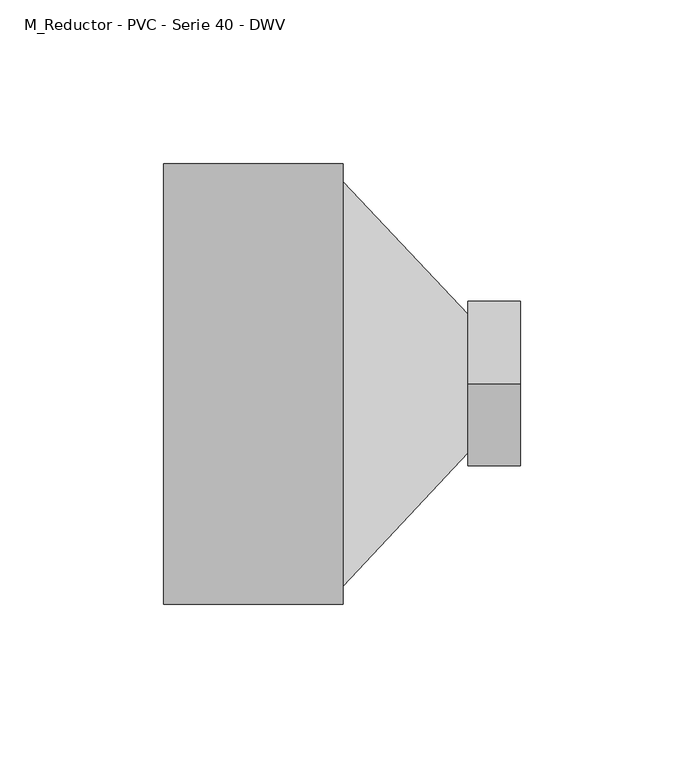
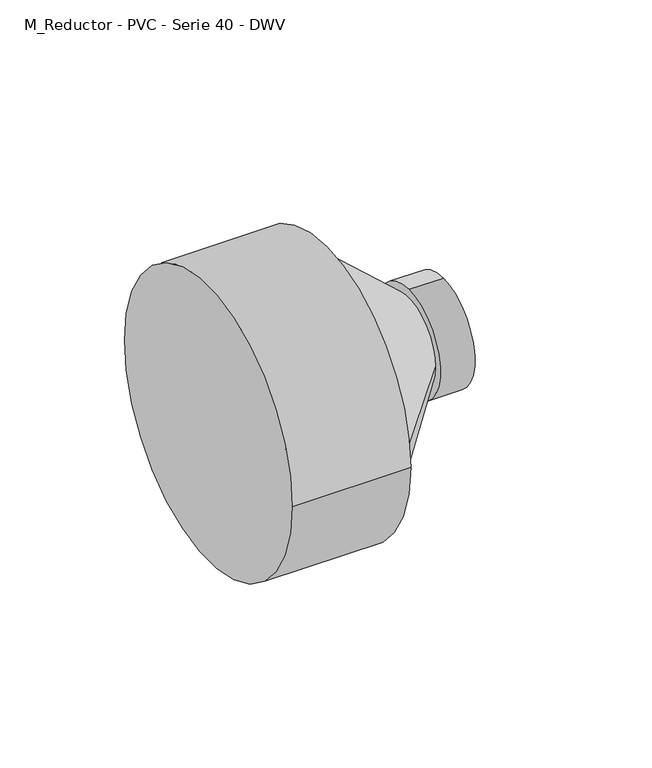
"""IFC4 building model written with IfcOpenShell, lengths in millimetres: pipe fitting geometry, M_Reductor - PVC - Serie 40 - DWV : Estándar."""

from ifc_helpers import new_model, si_unit, frame, origin, place, context, project, spatial, circle_curve, source, transform, mapped, element, save
from ifc_brep_helpers import plane_surface, cylinder_surface, spline_surface, advanced_brep


def m_reductor_pvc_serie_40_dwv_3984a2b7(model_context):
    return source(origin(), model_context, "Body", "AdvancedBrep", [
        advanced_brep(
        [(0.0, -67.3871094, 0.0), (0.0, 67.3871094, 0.0), (55.0, -67.3871094, 0.0), (55.0, 67.3871094, 0.0), (55.0, 61.7640625, 0.0), (55.0, -61.7640625, 0.0), (93.1560938, 21.3298168, 7.6690608), (93.1560938, -21.0783082, 7.6690608), (93.1560938, 0.1257543, 32.9361702), (93.1560938, 0.1257543, -17.5980486), (109.1560938, 0.1257543, 32.9361702), (109.1560938, 0.1257543, -17.5980486)],
        [
            (0, 1, circle_curve(frame((0.0, 0.0, 0.0), z_axis=(-1.0, 0.0, 0.0), x_axis=(0.0, 1.0, 0.0)), 67.3871094)),
            (1, 0, circle_curve(frame((0.0, 0.0, 0.0), z_axis=(-1.0, 0.0, 0.0), x_axis=(0.0, 1.0, 0.0)), 67.3871094)),
            (2, 3, circle_curve(frame((55.0, 0.0, 0.0), z_axis=(1.0, 0.0, 0.0), x_axis=(0.0, 1.0, 0.0)), 67.3871094)),
            (3, 2, circle_curve(frame((55.0, 0.0, 0.0), z_axis=(1.0, 0.0, 0.0), x_axis=(0.0, 1.0, 0.0)), 67.3871094)),
            (4, 5, circle_curve(frame((55.0, 0.0, 0.0), z_axis=(-1.0, 0.0, 0.0), x_axis=(0.0, 1.0, 0.0)), 61.7640625)),
            (5, 4, circle_curve(frame((55.0, 0.0, 0.0), z_axis=(-1.0, 0.0, 0.0), x_axis=(0.0, 1.0, 0.0)), 61.7640625)),
            (0, 2),
            (3, 1),
            (4, 6),
            (6, 7, circle_curve(frame((93.1560938, 0.1257543, 7.6690608), z_axis=(-1.0, 0.0, 0.0), x_axis=(0.0, 1.0, 0.0)), 21.2040625)),
            (7, 5),
            (7, 6, circle_curve(frame((93.1560938, 0.1257543, 7.6690608), z_axis=(-1.0, 0.0, 0.0), x_axis=(0.0, 1.0, 0.0)), 21.2040625)),
            (8, 9, circle_curve(frame((93.1560938, 0.1257543, 7.6690608), z_axis=(-1.0, 0.0, 0.0), x_axis=(0.0, 0.0, -1.0)), 25.2671094)),
            (9, 8, circle_curve(frame((93.1560938, 0.1257543, 7.6690608), z_axis=(-1.0, 0.0, 0.0), x_axis=(0.0, 0.0, -1.0)), 25.2671094)),
            (10, 11, circle_curve(frame((109.1560938, 0.1257543, 7.6690608), z_axis=(1.0, 0.0, 0.0), x_axis=(0.0, 0.0, -1.0)), 25.2671094)),
            (11, 10, circle_curve(frame((109.1560938, 0.1257543, 7.6690608), z_axis=(1.0, 0.0, 0.0), x_axis=(0.0, 0.0, -1.0)), 25.2671094)),
            (8, 10),
            (11, 9),
        ],
        [
            plane_surface(frame((0.0, 0.0, 0.0), z_axis=(-1.0, 0.0, 0.0), x_axis=(0.0, 0.0, 1.0))),
            plane_surface(frame((55.0, 0.0, 0.0), z_axis=(1.0, 0.0, 0.0), x_axis=(0.0, 0.0, 1.0))),
            cylinder_surface(frame((0.0, 0.0, 0.0), z_axis=(-1.0, 0.0, 0.0), x_axis=(0.0, 1.0, 0.0)), 67.3871094),
            spline_surface(2, 1, [[(55.0, -61.7640625, 0.0), (93.1560938, -21.0783082, 7.6690608)], [(55.0, -61.7640625, -61.7640625), (93.1560938, -21.0783082, -13.535001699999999)], [(55.0, 0.0, -61.7640625), (93.1560938, 0.1257543, -13.535001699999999)], [(55.0, 61.7640625, -61.7640625), (93.1560938, 21.3298168, -13.535001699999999)], [(55.0, 61.7640625, 0.0), (93.1560938, 21.3298168, 7.6690608)]], [3, 2, 3], [2, 2], [0.0, 1.0, 2.0], [0.0, 1.0], weights=[[1.0, 1.0], [0.7071067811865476, 0.7071067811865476], [1.0, 1.0], [0.7071067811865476, 0.7071067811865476], [1.0, 1.0]]),
            spline_surface(2, 1, [[(55.0, 61.7640625, 0.0), (93.1560938, 21.3298168, 7.6690608)], [(55.0, 61.7640625, 61.7640625), (93.1560938, 21.3298168, 28.8731233)], [(55.0, 0.0, 61.7640625), (93.1560938, 0.1257543, 28.8731233)], [(55.0, -61.7640625, 61.7640625), (93.1560938, -21.0783082, 28.8731233)], [(55.0, -61.7640625, 0.0), (93.1560938, -21.0783082, 7.6690608)]], [3, 2, 3], [2, 2], [0.0, 1.0, 2.0], [0.0, 1.0], weights=[[1.0, 1.0], [0.7071067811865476, 0.7071067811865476], [1.0, 1.0], [0.7071067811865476, 0.7071067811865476], [1.0, 1.0]]),
            plane_surface(frame((93.1560938, 0.1257543, 7.6690608), z_axis=(-1.0, 0.0, 0.0), x_axis=(0.0, 1.0, 0.0))),
            plane_surface(frame((109.1560938, 0.1257543, 7.6690608), z_axis=(1.0, 0.0, 0.0), x_axis=(0.0, 1.0, 0.0))),
            cylinder_surface(frame((93.1560938, 0.1257543, 7.6690608), z_axis=(-1.0, 0.0, 0.0), x_axis=(0.0, 0.0, -1.0)), 25.2671094),
        ],
        [
            (0, [[1, 2]]),
            (1, [[3, 4], [5, 6]]),
            (2, [[-1, 7, -4, 8]]),
            (2, [[-2, -8, -3, -7]]),
            (3, [[9, 10, 11, -5]]),
            (4, [[-9, -6, -11, 12]]),
            (5, [[13, 14], [-10, -12]]),
            (6, [[15, 16]]),
            (7, [[-13, 17, -16, 18]]),
            (7, [[-14, -18, -15, -17]]),
        ],
    ),
    ])


if __name__ == "__main__":
    model = new_model("IFC4")
    model_context = context("Model", 3, world=origin())
    ifc_project = project(units=[si_unit("LENGTHUNIT", "METRE", prefix="MILLI")], contexts=[model_context])
    site = spatial("IfcSite", under=ifc_project)
    building = spatial("IfcBuilding", under=site)
    placement = place(None, origin())
    m_reductor_pvc_serie_40_dwv_shape = m_reductor_pvc_serie_40_dwv_3984a2b7(model_context)
    element("IfcPipeFitting", 1, ObjectType="M_Reductor - PVC - Serie 40 - DWV : Estándar", at=placement, inside=building, context=model_context, shape_type="MappedRepresentation", body=[
        mapped(m_reductor_pvc_serie_40_dwv_shape, transform((0.0, 0.0, 0.0), x_axis=(1.0, 0.0, 0.0), y_axis=(0.0, 1.0, 0.0), z_axis=(0.0, 0.0, 1.0))),
    ])
    save(model, "model.ifc")
